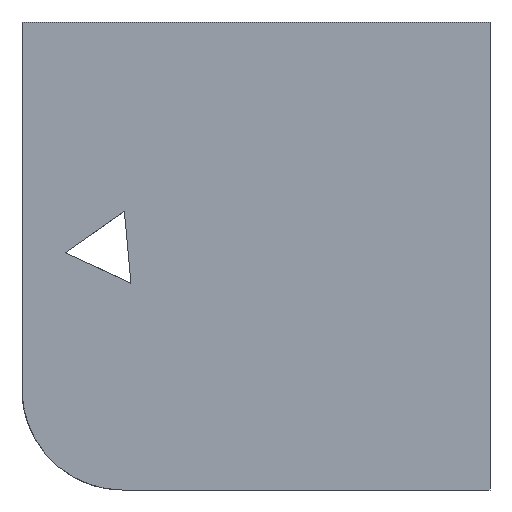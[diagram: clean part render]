
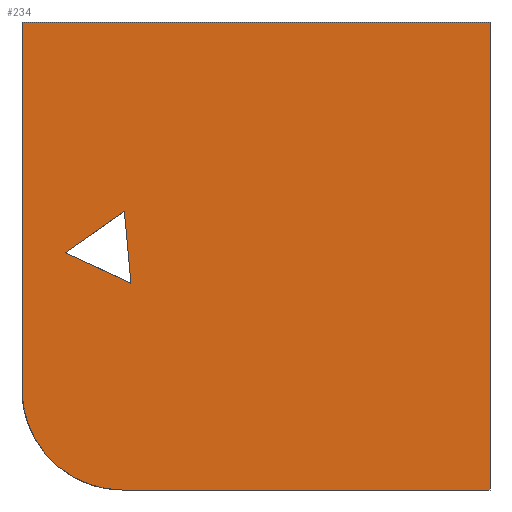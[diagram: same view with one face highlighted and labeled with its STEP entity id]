
A CAD part, front view. The second image highlights one B-rep face of the part: STEP entity #234.
In plain terms, the highlighted planar face has unit normal (0, -1, 0).
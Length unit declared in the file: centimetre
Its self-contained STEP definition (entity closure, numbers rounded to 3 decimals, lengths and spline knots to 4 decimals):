
#19 = CARTESIAN_POINT ( 'NONE',  ( 1000., 0., 0. ) ) ;
#46 = VERTEX_POINT ( 'NONE', #1379 ) ;
#56 = DIRECTION ( 'NONE',  ( 0., 0., -1. ) ) ;
#93 = CARTESIAN_POINT ( 'NONE',  ( 0., 0., 1000. ) ) ;
#97 = CARTESIAN_POINT ( 'NONE',  ( 0., 0., 1000. ) ) ;
#101 = DIRECTION ( 'NONE',  ( 0.817, 0., 0.577 ) ) ;
#111 = VECTOR ( 'NONE', #1025, 100. ) ;
#118 = VERTEX_POINT ( 'NONE', #1343 ) ;
#125 = VERTEX_POINT ( 'NONE', #1209 ) ;
#170 = LINE ( 'NONE', #1169, #776 ) ;
#192 = VERTEX_POINT ( 'NONE', #463 ) ;
#195 = DIRECTION ( 'NONE',  ( 0., -1., 0. ) ) ;
#205 = FACE_OUTER_BOUND ( 'NONE', #913, .T. ) ;
#213 = ORIENTED_EDGE ( 'NONE', *, *, #287, .T. ) ;
#234 = ADVANCED_FACE ( 'NONE', ( #829, #205 ), #1452, .F. ) ;
#249 = VERTEX_POINT ( 'NONE', #1424 ) ;
#261 = LINE ( 'NONE', #1128, #1609 ) ;
#287 = EDGE_CURVE ( 'NONE', #249, #192, #1556, .T. ) ;
#289 = CARTESIAN_POINT ( 'NONE',  ( 0., 0., 0. ) ) ;
#311 = ORIENTED_EDGE ( 'NONE', *, *, #1533, .T. ) ;
#319 = EDGE_CURVE ( 'NONE', #125, #46, #170, .T. ) ;
#337 = VECTOR ( 'NONE', #1215, 100. ) ;
#361 = VERTEX_POINT ( 'NONE', #700 ) ;
#378 = EDGE_CURVE ( 'NONE', #46, #361, #639, .T. ) ;
#389 = EDGE_CURVE ( 'NONE', #125, #1451, #1312, .T. ) ;
#396 = LINE ( 'NONE', #289, #592 ) ;
#451 = VECTOR ( 'NONE', #101, 100. ) ;
#463 = CARTESIAN_POINT ( 'NONE',  ( 232.7195, 0., 442.1882 ) ) ;
#522 = CARTESIAN_POINT ( 'NONE',  ( 92.4671, 0., 506.9297 ) ) ;
#592 = VECTOR ( 'NONE', #785, 100. ) ;
#639 = CIRCLE ( 'NONE', #1576, 215.0067 ) ;
#658 = CARTESIAN_POINT ( 'NONE',  ( 232.7195, 0., 442.1882 ) ) ;
#680 = ORIENTED_EDGE ( 'NONE', *, *, #1359, .T. ) ;
#690 = DIRECTION ( 'NONE',  ( 0., 0., 1. ) ) ;
#691 = CARTESIAN_POINT ( 'NONE',  ( 218.6611, 0., 596.0211 ) ) ;
#700 = CARTESIAN_POINT ( 'NONE',  ( 215.0067, 0., 0. ) ) ;
#756 = ORIENTED_EDGE ( 'NONE', *, *, #378, .T. ) ;
#776 = VECTOR ( 'NONE', #56, 100. ) ;
#785 = DIRECTION ( 'NONE',  ( 1., 0., 0. ) ) ;
#829 = FACE_BOUND ( 'NONE', #1290, .T. ) ;
#869 = VERTEX_POINT ( 'NONE', #19 ) ;
#870 = ORIENTED_EDGE ( 'NONE', *, *, #319, .T. ) ;
#906 = DIRECTION ( 'NONE',  ( 0., 0., -1. ) ) ;
#913 = EDGE_LOOP ( 'NONE', ( #870, #756, #930, #1108, #1042 ) ) ;
#930 = ORIENTED_EDGE ( 'NONE', *, *, #1237, .T. ) ;
#1024 = DIRECTION ( 'NONE',  ( 0.091, 0., -0.996 ) ) ;
#1025 = DIRECTION ( 'NONE',  ( -0.908, 0., 0.419 ) ) ;
#1042 = ORIENTED_EDGE ( 'NONE', *, *, #389, .F. ) ;
#1086 = CARTESIAN_POINT ( 'NONE',  ( 215.0067, 0., 215.0067 ) ) ;
#1087 = DIRECTION ( 'NONE',  ( 0., 1., 0. ) ) ;
#1108 = ORIENTED_EDGE ( 'NONE', *, *, #1182, .F. ) ;
#1128 = CARTESIAN_POINT ( 'NONE',  ( 1000., 0., 1000. ) ) ;
#1169 = CARTESIAN_POINT ( 'NONE',  ( 0., 0., 1000. ) ) ;
#1170 = CARTESIAN_POINT ( 'NONE',  ( 1000., 0., 1000. ) ) ;
#1182 = EDGE_CURVE ( 'NONE', #1451, #869, #261, .T. ) ;
#1188 = LINE ( 'NONE', #522, #111 ) ;
#1205 = DIRECTION ( 'NONE',  ( 0., 0., 1. ) ) ;
#1209 = CARTESIAN_POINT ( 'NONE',  ( 0., 0., 1000. ) ) ;
#1215 = DIRECTION ( 'NONE',  ( 1., 0., 0. ) ) ;
#1237 = EDGE_CURVE ( 'NONE', #361, #869, #396, .T. ) ;
#1290 = EDGE_LOOP ( 'NONE', ( #311, #680, #213 ) ) ;
#1312 = LINE ( 'NONE', #97, #337 ) ;
#1331 = LINE ( 'NONE', #691, #451 ) ;
#1343 = CARTESIAN_POINT ( 'NONE',  ( 92.4671, 0., 506.9297 ) ) ;
#1359 = EDGE_CURVE ( 'NONE', #118, #249, #1331, .T. ) ;
#1379 = CARTESIAN_POINT ( 'NONE',  ( 0., 0., 215.0067 ) ) ;
#1424 = CARTESIAN_POINT ( 'NONE',  ( 218.6611, 0., 596.0211 ) ) ;
#1436 = VECTOR ( 'NONE', #1024, 100. ) ;
#1451 = VERTEX_POINT ( 'NONE', #1170 ) ;
#1452 = PLANE ( 'NONE',  #1549 ) ;
#1533 = EDGE_CURVE ( 'NONE', #192, #118, #1188, .T. ) ;
#1549 = AXIS2_PLACEMENT_3D ( 'NONE', #93, #1087, #690 ) ;
#1556 = LINE ( 'NONE', #658, #1436 ) ;
#1576 = AXIS2_PLACEMENT_3D ( 'NONE', #1086, #195, #1205 ) ;
#1609 = VECTOR ( 'NONE', #906, 100. ) ;
